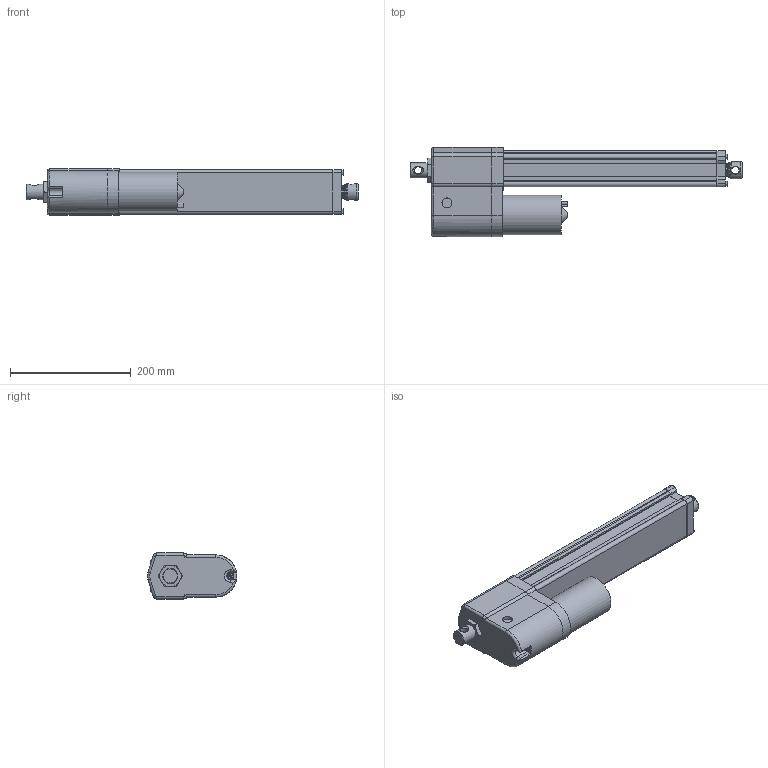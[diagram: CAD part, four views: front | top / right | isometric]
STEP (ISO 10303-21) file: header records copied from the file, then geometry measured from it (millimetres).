
FILE_DESCRIPTION( ( 'STEP AP203' ), '1' );
FILE_NAME( 'p:/temp/worker_343/temp/exporttempdir_696_1280_EllpH/format_0/DA24-21B65M25M0NPO-AMM.stp', '2020-04-12T18:22:24', ( 'License CC BY-ND 4.0' ), ( 'CADENAS' ), ' ', 'PARTsolutions', ' ' );
FILE_SCHEMA( ( 'CONFIG_CONTROL_DESIGN' ) );
Length unit declared in the file: millimetre
Products named in the file (8): DA24-21B65M25M0NPO-AMM; _ELECTRAK-LA14-DA24-21B65MM0NPO-25M-EU-REAR; _Electrak-10-EU-RA-D602700; _D602768eu; _ELECTRAK-LA14-DA24--MOTOR; _DA24-21B65M25M0NPOAMMtube; _ELECTRAK-LA14-DA24--25-PLATE; _ELECTRAK-LA14-DA24--2521B65MNPOM-ROD
Assembly tree (7 placements, depth 2):
  DA24-21B65M25M0NPO-AMM
    _ELECTRAK-LA14-DA24-21B65MM0NPO-25M-EU-REAR
    _Electrak-10-EU-RA-D602700
    _D602768eu
    _ELECTRAK-LA14-DA24--MOTOR
    _DA24-21B65M25M0NPOAMMtube
    _ELECTRAK-LA14-DA24--25-PLATE
    _ELECTRAK-LA14-DA24--2521B65MNPOM-ROD
Bounding box: 548.95 x 148 x 76.2 mm (x, y, z)
Volume: 2143833.3 mm3; surface area: 402272 mm2
Topology: 7 solids, 8 shells, 378 faces, 942 edges, 611 vertices
Faces by surface type: plane 184, cylinder 131, cone 45, torus 14, bspline 4
Full cylindrical faces by diameter (mm): 4 x2, 4.126 x1, 4.8 x5, 5 x5, 5.6 x4, 7.878 x4, 9.398 x1, 12.2 x2, 16 x1, 16.5 x1, 21.8 x1, 25.2 x1, 25.4 x1, 26.24 x1, 28.5 x1, 28.6 x2, 47.625 x1, 65.3 x1
Entity records: 11834 total; most frequent: CARTESIAN_POINT 2729, DIRECTION 1869, ORIENTED_EDGE 1744, EDGE_CURVE 872, AXIS2_PLACEMENT_3D 702, VERTEX_POINT 602, EDGE_LOOP 485, LINE 465
